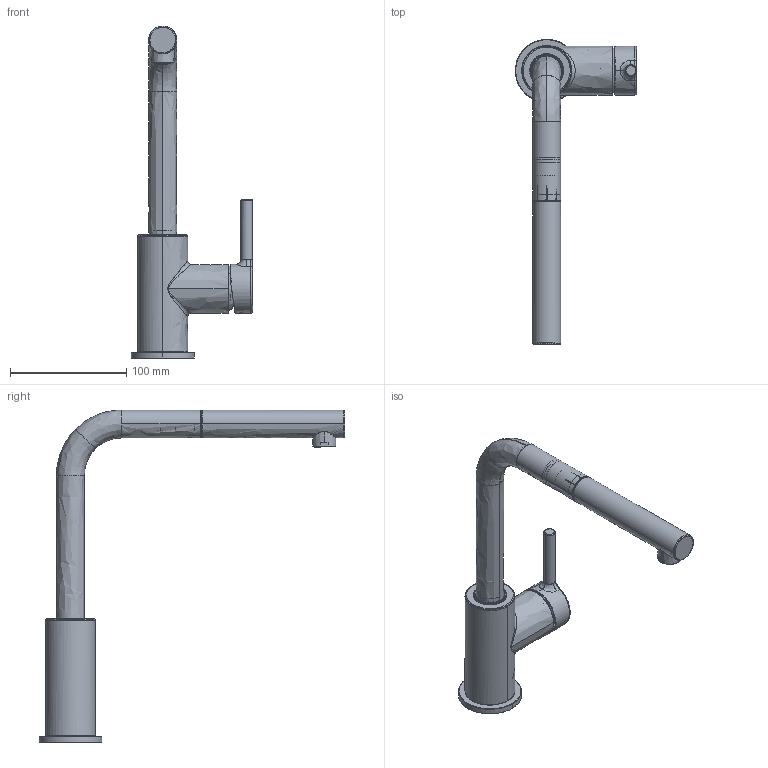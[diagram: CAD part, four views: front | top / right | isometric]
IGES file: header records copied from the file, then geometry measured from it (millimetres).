
Global section: file name: F:\_CONVERSIONE_CAD_2024_2025\PACCHETTI_2026\NUOVI_PACCHETTI_LUGLIO\PRIORITY_3\3D001_Taps_Lina_L-Pull-Out-Nozzle\3D001_Taps_Lina_L-Pull-Out-Nozzle.igs; native system: Rhinoceros ( May  6 2026 ); preprocessor: Trout Lake IGES 012 May  6 2026; date: 260806.074413; units: millimetre
Bounding box: 104.33 x 263 x 285.5 mm (x, y, z)
Surface area: 123417.2 mm2 (no closed solid volume)
Topology: 0 solids, 0 shells, 2371 faces, 13331 edges, 13329 vertices
Faces by surface type: bspline 2371
